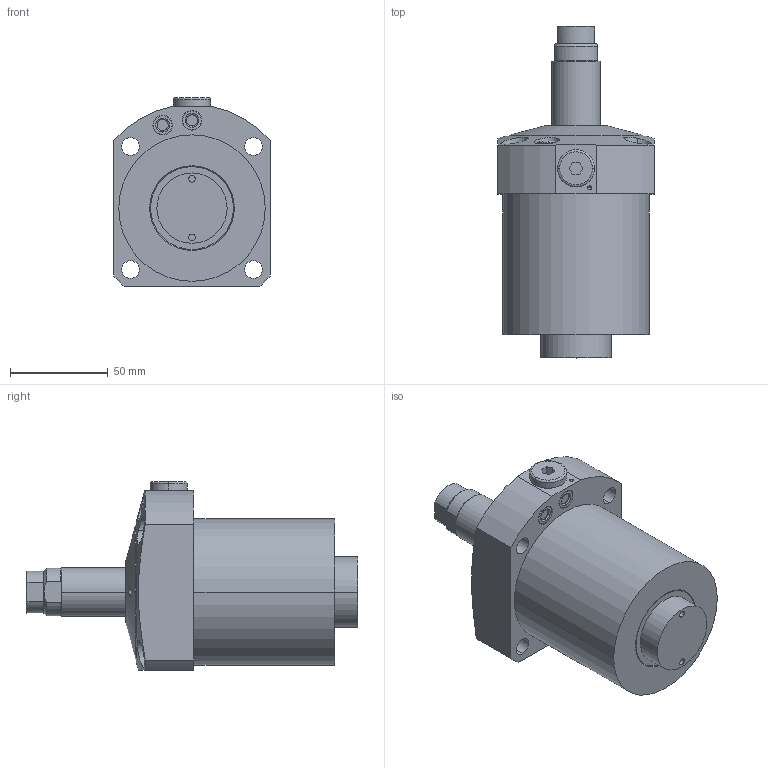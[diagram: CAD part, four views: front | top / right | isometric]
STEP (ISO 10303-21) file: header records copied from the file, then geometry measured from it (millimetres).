
FILE_DESCRIPTION(/* description */ (''),/* implementation_level */ '2;1');
FILE_NAME(/* name */ 'KFSS75-Q.stp',/* time_stamp */ '2023-01-10T13:26:53+08:00',/* author */ (''),/* organization */ (''),/* preprocessor_version */ 'ST-DEVELOPER v16.7',/* originating_system */ 'SIEMENS PLM Software NX 12.0',/* authorisation */ '');
FILE_SCHEMA (('AP203_CONFIGURATION_CONTROLLED_3D_DESIGN_OF_MECHANICAL_PARTS_AND_ASSEMBLIES_MIM_LF { 1 0 10303 403 2 1 2}'));
Length unit declared in the file: millimetre
Products named in the file (8): KFSS75-Q-3; KFSS75-Q-1; KFSS75-Q-5; KFSS75-Q-2; KFSS75-Q-7; KFSS75-Q-6; KFSS75-Q-4; LC0752-C-EQ_step
Assembly tree (8 placements, depth 2):
  LC0752-C-EQ_step
    KFSS75-Q-4
    KFSS75-Q-6
    KFSS75-Q-7  x2
    KFSS75-Q-2
    KFSS75-Q-5
    KFSS75-Q-1
    KFSS75-Q-3
Bounding box: 80 x 170 x 96.5 mm (x, y, z)
Volume: 535088.9 mm3; surface area: 58421.2 mm2
Topology: 8 solids, 8 shells, 218 faces, 475 edges, 294 vertices
Faces by surface type: cylinder 87, plane 63, cone 38, torus 28, sphere 2
Entity records: 6808 total; most frequent: CARTESIAN_POINT 1193, DIRECTION 1078, ORIENTED_EDGE 890, AXIS2_PLACEMENT_3D 451, EDGE_CURVE 445, VERTEX_POINT 280, EDGE_LOOP 245, CIRCLE 236
